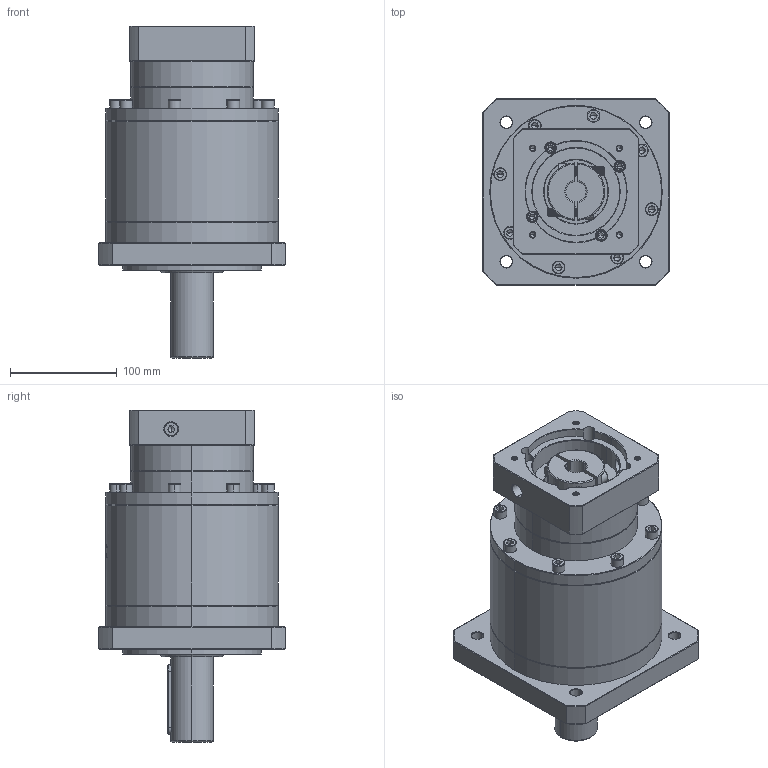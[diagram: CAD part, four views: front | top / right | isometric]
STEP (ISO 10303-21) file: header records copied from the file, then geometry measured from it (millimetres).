
FILE_DESCRIPTION (( 'STEP AP214' ), '1' );
FILE_NAME ('ZF160-D40-L3-19-95-115-M6.step', '2023-03-22T03:57:11', ( '' ), ( '' ), 'SwSTEP 2.0', 'SolidWorks 2016', '' );
FILE_SCHEMA (( 'AUTOMOTIVE_DESIGN' ));
Length unit declared in the file: millimetre
Products named in the file (1): ZF160-D40-L3-19-95-115-M6
Bounding box: 175 x 175 x 311.7 mm (x, y, z)
Volume: 4113154.4 mm3; surface area: 273094.7 mm2
Topology: 6 solids, 6 shells, 1873 faces, 4740 edges, 2989 vertices
Faces by surface type: plane 746, cylinder 483, cone 374, bspline 232, torus 38
Entity records: 99174 total; most frequent: CARTESIAN_POINT 35835, ORIENTED_EDGE 9372, DIRECTION 8230, EDGE_CURVE 4686, VERTEX_POINT 2989, AXIS2_PLACEMENT_3D 2863, VECTOR 2504, LINE 2504
